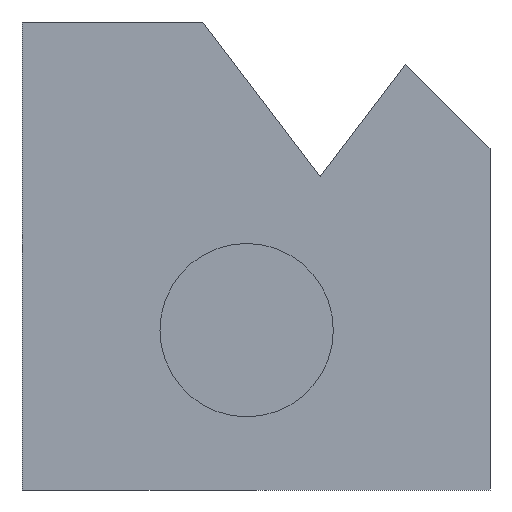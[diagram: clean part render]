
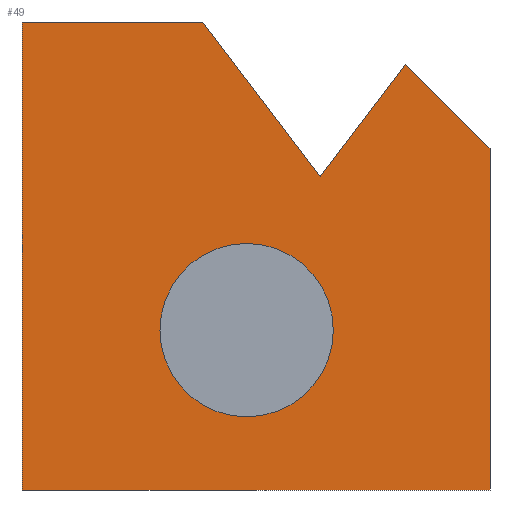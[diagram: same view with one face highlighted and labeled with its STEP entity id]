
A CAD part, left-side view. The second image highlights one B-rep face of the part: STEP entity #49.
In plain terms, the highlighted planar face has unit normal (-1, 0, 0).
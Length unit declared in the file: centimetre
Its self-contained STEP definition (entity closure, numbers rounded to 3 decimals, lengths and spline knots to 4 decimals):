
#16 = CARTESIAN_POINT ( 'NONE',  ( 0., 0., 729.5238 ) ) ;
#38 = VERTEX_POINT ( 'NONE', #484 ) ;
#48 = DIRECTION ( 'NONE',  ( 0., 0., -1. ) ) ;
#49 = ADVANCED_FACE ( 'NONE', ( #91, #268 ), #320, .F. ) ;
#52 = DIRECTION ( 'NONE',  ( -1., 0., 0. ) ) ;
#64 = ORIENTED_EDGE ( 'NONE', *, *, #515, .F. ) ;
#74 = EDGE_LOOP ( 'NONE', ( #307, #64, #94, #227, #566, #537, #435 ) ) ;
#81 = VERTEX_POINT ( 'NONE', #412 ) ;
#84 = LINE ( 'NONE', #361, #267 ) ;
#86 = VERTEX_POINT ( 'NONE', #279 ) ;
#87 = VECTOR ( 'NONE', #348, 100. ) ;
#91 = FACE_BOUND ( 'NONE', #382, .T. ) ;
#92 = CARTESIAN_POINT ( 'NONE',  ( 0., 1000., 1000. ) ) ;
#94 = ORIENTED_EDGE ( 'NONE', *, *, #325, .F. ) ;
#95 = VECTOR ( 'NONE', #545, 100. ) ;
#104 = LINE ( 'NONE', #144, #564 ) ;
#111 = CARTESIAN_POINT ( 'NONE',  ( 0., 112.5464, 1000. ) ) ;
#130 = EDGE_CURVE ( 'NONE', #81, #362, #575, .T. ) ;
#144 = CARTESIAN_POINT ( 'NONE',  ( 0., 0., 1000. ) ) ;
#147 = AXIS2_PLACEMENT_3D ( 'NONE', #230, #330, #232 ) ;
#155 = CARTESIAN_POINT ( 'NONE',  ( 0., 613.4917, 1000. ) ) ;
#175 = VERTEX_POINT ( 'NONE', #155 ) ;
#181 = DIRECTION ( 'NONE',  ( 0., 0., 1. ) ) ;
#184 = CARTESIAN_POINT ( 'NONE',  ( 0., 363.0191, 669.5535 ) ) ;
#188 = CARTESIAN_POINT ( 'NONE',  ( 0., 1000., 0. ) ) ;
#193 = EDGE_CURVE ( 'NONE', #471, #38, #84, .T. ) ;
#214 = DIRECTION ( 'NONE',  ( 0., 0.707, 0.707 ) ) ;
#227 = ORIENTED_EDGE ( 'NONE', *, *, #339, .F. ) ;
#230 = CARTESIAN_POINT ( 'NONE',  ( 0., 520.0314, 341.6092 ) ) ;
#232 = DIRECTION ( 'NONE',  ( 0., 0., 1. ) ) ;
#233 = CIRCLE ( 'NONE', #354, 185.234 ) ;
#241 = VECTOR ( 'NONE', #292, 100. ) ;
#248 = LINE ( 'NONE', #111, #87 ) ;
#265 = VERTEX_POINT ( 'NONE', #452 ) ;
#267 = VECTOR ( 'NONE', #214, 100. ) ;
#268 = FACE_OUTER_BOUND ( 'NONE', #74, .T. ) ;
#273 = DIRECTION ( 'NONE',  ( 1., 0., 0. ) ) ;
#274 = CARTESIAN_POINT ( 'NONE',  ( 0., 520.0314, 341.6092 ) ) ;
#275 = VECTOR ( 'NONE', #406, 100. ) ;
#279 = CARTESIAN_POINT ( 'NONE',  ( 0., 1000., 1000. ) ) ;
#291 = VECTOR ( 'NONE', #333, 100. ) ;
#292 = DIRECTION ( 'NONE',  ( 0., 0., -1. ) ) ;
#293 = ORIENTED_EDGE ( 'NONE', *, *, #130, .F. ) ;
#307 = ORIENTED_EDGE ( 'NONE', *, *, #193, .T. ) ;
#320 = PLANE ( 'NONE',  #465 ) ;
#325 = EDGE_CURVE ( 'NONE', #175, #265, #448, .T. ) ;
#329 = LINE ( 'NONE', #188, #291 ) ;
#330 = DIRECTION ( 'NONE',  ( -1., 0., 0. ) ) ;
#332 = EDGE_CURVE ( 'NONE', #362, #81, #233, .T. ) ;
#333 = DIRECTION ( 'NONE',  ( 0., -1., 0. ) ) ;
#337 = DIRECTION ( 'NONE',  ( 0., 0., -1. ) ) ;
#338 = VERTEX_POINT ( 'NONE', #411 ) ;
#339 = EDGE_CURVE ( 'NONE', #86, #175, #371, .T. ) ;
#348 = DIRECTION ( 'NONE',  ( 0., -0.604, 0.797 ) ) ;
#354 = AXIS2_PLACEMENT_3D ( 'NONE', #274, #52, #181 ) ;
#361 = CARTESIAN_POINT ( 'NONE',  ( 0., 270.4762, 1000. ) ) ;
#362 = VERTEX_POINT ( 'NONE', #460 ) ;
#363 = EDGE_CURVE ( 'NONE', #471, #439, #104, .T. ) ;
#369 = CARTESIAN_POINT ( 'NONE',  ( 0., 1000., 1000. ) ) ;
#371 = LINE ( 'NONE', #369, #95 ) ;
#382 = EDGE_LOOP ( 'NONE', ( #476, #293 ) ) ;
#406 = DIRECTION ( 'NONE',  ( 0., -0.604, -0.797 ) ) ;
#409 = EDGE_CURVE ( 'NONE', #338, #439, #329, .T. ) ;
#411 = CARTESIAN_POINT ( 'NONE',  ( 0., 1000., 0. ) ) ;
#412 = CARTESIAN_POINT ( 'NONE',  ( 0., 520.0314, 156.3751 ) ) ;
#414 = CARTESIAN_POINT ( 'NONE',  ( 0., 0., 0. ) ) ;
#435 = ORIENTED_EDGE ( 'NONE', *, *, #363, .F. ) ;
#439 = VERTEX_POINT ( 'NONE', #414 ) ;
#448 = LINE ( 'NONE', #184, #275 ) ;
#452 = CARTESIAN_POINT ( 'NONE',  ( 0., 363.0191, 669.5535 ) ) ;
#460 = CARTESIAN_POINT ( 'NONE',  ( 0., 520.0314, 526.8432 ) ) ;
#461 = LINE ( 'NONE', #549, #241 ) ;
#465 = AXIS2_PLACEMENT_3D ( 'NONE', #92, #273, #48 ) ;
#471 = VERTEX_POINT ( 'NONE', #16 ) ;
#476 = ORIENTED_EDGE ( 'NONE', *, *, #332, .F. ) ;
#484 = CARTESIAN_POINT ( 'NONE',  ( 0., 180.6404, 910.1642 ) ) ;
#487 = EDGE_CURVE ( 'NONE', #86, #338, #461, .T. ) ;
#515 = EDGE_CURVE ( 'NONE', #265, #38, #248, .T. ) ;
#537 = ORIENTED_EDGE ( 'NONE', *, *, #409, .T. ) ;
#545 = DIRECTION ( 'NONE',  ( 0., -1., 0. ) ) ;
#549 = CARTESIAN_POINT ( 'NONE',  ( 0., 1000., 1000. ) ) ;
#564 = VECTOR ( 'NONE', #337, 100. ) ;
#566 = ORIENTED_EDGE ( 'NONE', *, *, #487, .T. ) ;
#575 = CIRCLE ( 'NONE', #147, 185.234 ) ;
